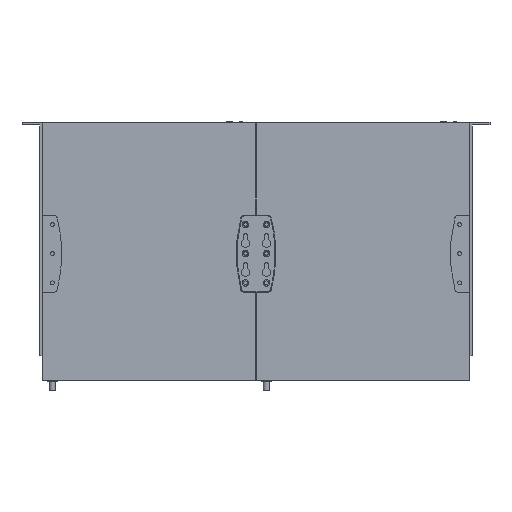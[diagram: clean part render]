
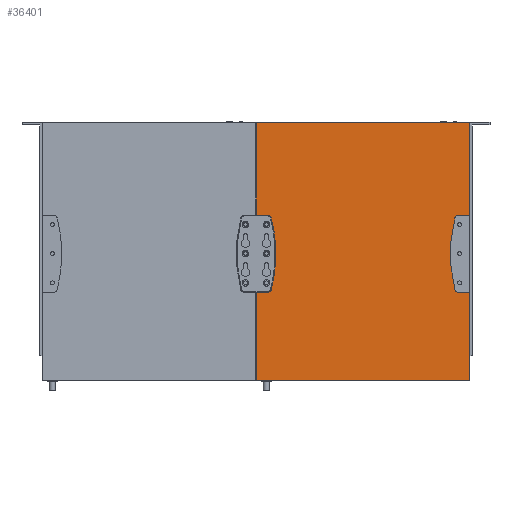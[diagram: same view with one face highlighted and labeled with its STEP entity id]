
A CAD part, front view. The second image highlights one B-rep face of the part: STEP entity #36401.
In plain terms, the highlighted planar face has unit normal (0, -1, 0).
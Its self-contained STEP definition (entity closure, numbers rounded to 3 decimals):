
#1144 = ORIENTED_EDGE ( 'NONE', *, *, #42557, .F. ) ;
#1253 = LINE ( 'NONE', #55145, #15999 ) ;
#1670 = CARTESIAN_POINT ( 'NONE',  ( 110.78, -21.8, 133.295 ) ) ;
#2424 = AXIS2_PLACEMENT_3D ( 'NONE', #49204, #36098, #31644 ) ;
#3440 = EDGE_CURVE ( 'NONE', #12459, #30993, #41377, .T. ) ;
#3465 = CIRCLE ( 'NONE', #21582, 3.8 ) ;
#3591 = EDGE_CURVE ( 'NONE', #5114, #47298, #15777, .T. ) ;
#4117 = CARTESIAN_POINT ( 'NONE',  ( 330.92, -21.8, 133.295 ) ) ;
#4150 = DIRECTION ( 'NONE',  ( 0., -1., 0. ) ) ;
#4385 = VERTEX_POINT ( 'NONE', #49363 ) ;
#4719 = DIRECTION ( 'NONE',  ( 1., 0., 0. ) ) ;
#5014 = DIRECTION ( 'NONE',  ( 0., -1., 0. ) ) ;
#5114 = VERTEX_POINT ( 'NONE', #32747 ) ;
#5810 = DIRECTION ( 'NONE',  ( -1., 0., 0. ) ) ;
#5855 = EDGE_CURVE ( 'NONE', #6227, #54648, #19531, .T. ) ;
#5895 = AXIS2_PLACEMENT_3D ( 'NONE', #1670, #16304, #15408 ) ;
#6227 = VERTEX_POINT ( 'NONE', #9522 ) ;
#6419 = FACE_OUTER_BOUND ( 'NONE', #20671, .T. ) ;
#6953 = CIRCLE ( 'NONE', #27913, 149.8 ) ;
#7307 = PLANE ( 'NONE',  #5895 ) ;
#7544 = CARTESIAN_POINT ( 'NONE',  ( 110.78, -21.8, -42.1 ) ) ;
#8340 = CARTESIAN_POINT ( 'NONE',  ( 330.92, -21.8, 133.295 ) ) ;
#9132 = ORIENTED_EDGE ( 'NONE', *, *, #50027, .F. ) ;
#9478 = DIRECTION ( 'NONE',  ( 1., 0., 0. ) ) ;
#9522 = CARTESIAN_POINT ( 'NONE',  ( 110.78, -21.8, -133.295 ) ) ;
#11155 = EDGE_CURVE ( 'NONE', #27369, #6227, #36009, .T. ) ;
#11206 = EDGE_CURVE ( 'NONE', #4385, #27527, #3465, .T. ) ;
#11228 = DIRECTION ( 'NONE',  ( 1., 0., 0. ) ) ;
#11923 = LINE ( 'NONE', #35127, #54993 ) ;
#12058 = CARTESIAN_POINT ( 'NONE',  ( 315.545, -21.8, 34.637 ) ) ;
#12459 = VERTEX_POINT ( 'NONE', #48422 ) ;
#12526 = ORIENTED_EDGE ( 'NONE', *, *, #23841, .F. ) ;
#13388 = CIRCLE ( 'NONE', #56912, 3.8 ) ;
#13491 = VERTEX_POINT ( 'NONE', #40243 ) ;
#15154 = ORIENTED_EDGE ( 'NONE', *, *, #33095, .F. ) ;
#15373 = VERTEX_POINT ( 'NONE', #52650 ) ;
#15408 = DIRECTION ( 'NONE',  ( -1., 0., 0. ) ) ;
#15735 = AXIS2_PLACEMENT_3D ( 'NONE', #30453, #37957, #5810 ) ;
#15777 = CIRCLE ( 'NONE', #2424, 3.8 ) ;
#15943 = CARTESIAN_POINT ( 'NONE',  ( 319.228, -21.8, 37.5 ) ) ;
#15999 = VECTOR ( 'NONE', #18892, 1000. ) ;
#16133 = ORIENTED_EDGE ( 'NONE', *, *, #52985, .F. ) ;
#16243 = DIRECTION ( 'NONE',  ( -1., 0., 0. ) ) ;
#16304 = DIRECTION ( 'NONE',  ( 0., 1., 0. ) ) ;
#16694 = DIRECTION ( 'NONE',  ( 0., -1., 0. ) ) ;
#17599 = CARTESIAN_POINT ( 'NONE',  ( 319.228, -21.8, -42.1 ) ) ;
#18730 = VECTOR ( 'NONE', #52017, 1000. ) ;
#18892 = DIRECTION ( 'NONE',  ( 1., 0., 0. ) ) ;
#18897 = EDGE_CURVE ( 'NONE', #26408, #4385, #6953, .T. ) ;
#19531 = LINE ( 'NONE', #23675, #26395 ) ;
#19728 = CARTESIAN_POINT ( 'NONE',  ( 330.92, -21.8, 133.295 ) ) ;
#19906 = DIRECTION ( 'NONE',  ( 1., 0., 0. ) ) ;
#20654 = DIRECTION ( 'NONE',  ( -1., 0., 0. ) ) ;
#20671 = EDGE_LOOP ( 'NONE', ( #16133, #21475, #37955, #42294, #12526, #33293, #15154, #51831, #24706, #9132, #39690, #1144, #52719, #33520, #38062, #23369, #56595 ) ) ;
#21377 = CARTESIAN_POINT ( 'NONE',  ( 319.228, -21.8, -42.1 ) ) ;
#21475 = ORIENTED_EDGE ( 'NONE', *, *, #45681, .F. ) ;
#21582 = AXIS2_PLACEMENT_3D ( 'NONE', #27352, #5014, #4719 ) ;
#23369 = ORIENTED_EDGE ( 'NONE', *, *, #11155, .T. ) ;
#23675 = CARTESIAN_POINT ( 'NONE',  ( 110.78, -21.8, -133.295 ) ) ;
#23841 = EDGE_CURVE ( 'NONE', #25606, #26408, #45394, .T. ) ;
#24072 = CARTESIAN_POINT ( 'NONE',  ( 319.228, -21.8, 37.5 ) ) ;
#24369 = EDGE_CURVE ( 'NONE', #15373, #36172, #1253, .T. ) ;
#24706 = ORIENTED_EDGE ( 'NONE', *, *, #58363, .T. ) ;
#25337 = CIRCLE ( 'NONE', #30796, 149.8 ) ;
#25523 = EDGE_CURVE ( 'NONE', #13491, #12459, #13388, .T. ) ;
#25606 = VERTEX_POINT ( 'NONE', #15943 ) ;
#26395 = VECTOR ( 'NONE', #37337, 1000. ) ;
#26408 = VERTEX_POINT ( 'NONE', #12058 ) ;
#26808 = DIRECTION ( 'NONE',  ( 0., 0., -1. ) ) ;
#26937 = VERTEX_POINT ( 'NONE', #51477 ) ;
#27323 = AXIS2_PLACEMENT_3D ( 'NONE', #39283, #16694, #56511 ) ;
#27352 = CARTESIAN_POINT ( 'NONE',  ( 319.228, -21.8, -38.3 ) ) ;
#27369 = VERTEX_POINT ( 'NONE', #7544 ) ;
#27527 = VERTEX_POINT ( 'NONE', #17599 ) ;
#27754 = DIRECTION ( 'NONE',  ( 0., 0., -1. ) ) ;
#27913 = AXIS2_PLACEMENT_3D ( 'NONE', #58601, #4150, #9478 ) ;
#28491 = VECTOR ( 'NONE', #54818, 1000. ) ;
#30096 = VERTEX_POINT ( 'NONE', #37112 ) ;
#30453 = CARTESIAN_POINT ( 'NONE',  ( -19.02, -21.8, -2.3 ) ) ;
#30796 = AXIS2_PLACEMENT_3D ( 'NONE', #52464, #43829, #20654 ) ;
#30993 = VERTEX_POINT ( 'NONE', #43412 ) ;
#31644 = DIRECTION ( 'NONE',  ( -1., 0., 0. ) ) ;
#32233 = CARTESIAN_POINT ( 'NONE',  ( 110.78, -21.8, 133.295 ) ) ;
#32747 = CARTESIAN_POINT ( 'NONE',  ( 126.155, -21.8, 34.637 ) ) ;
#32811 = LINE ( 'NONE', #19728, #28491 ) ;
#33095 = EDGE_CURVE ( 'NONE', #36172, #26937, #32811, .T. ) ;
#33293 = ORIENTED_EDGE ( 'NONE', *, *, #46697, .F. ) ;
#33520 = ORIENTED_EDGE ( 'NONE', *, *, #25523, .F. ) ;
#33810 = CARTESIAN_POINT ( 'NONE',  ( 330.92, -21.8, -42.1 ) ) ;
#35127 = CARTESIAN_POINT ( 'NONE',  ( 122.472, -21.8, 37.5 ) ) ;
#35173 = VECTOR ( 'NONE', #26808, 1000. ) ;
#36009 = LINE ( 'NONE', #49407, #37671 ) ;
#36098 = DIRECTION ( 'NONE',  ( 0., -1., 0. ) ) ;
#36172 = VERTEX_POINT ( 'NONE', #4117 ) ;
#36401 = ADVANCED_FACE ( 'NONE', ( #6419 ), #7307, .F. ) ;
#37112 = CARTESIAN_POINT ( 'NONE',  ( 110.78, -21.8, 37.5 ) ) ;
#37337 = DIRECTION ( 'NONE',  ( 1., 0., 0. ) ) ;
#37671 = VECTOR ( 'NONE', #40464, 1000. ) ;
#37955 = ORIENTED_EDGE ( 'NONE', *, *, #11206, .F. ) ;
#37957 = DIRECTION ( 'NONE',  ( 0., -1., 0. ) ) ;
#38062 = ORIENTED_EDGE ( 'NONE', *, *, #56591, .F. ) ;
#39283 = CARTESIAN_POINT ( 'NONE',  ( 319.228, -21.8, 33.7 ) ) ;
#39690 = ORIENTED_EDGE ( 'NONE', *, *, #3591, .F. ) ;
#39726 = CARTESIAN_POINT ( 'NONE',  ( 122.472, -21.8, -38.3 ) ) ;
#40243 = CARTESIAN_POINT ( 'NONE',  ( 122.472, -21.8, -42.1 ) ) ;
#40464 = DIRECTION ( 'NONE',  ( 0., 0., -1. ) ) ;
#41377 = CIRCLE ( 'NONE', #15735, 149.8 ) ;
#41747 = CARTESIAN_POINT ( 'NONE',  ( 330.92, -21.8, -133.295 ) ) ;
#42294 = ORIENTED_EDGE ( 'NONE', *, *, #18897, .F. ) ;
#42557 = EDGE_CURVE ( 'NONE', #30993, #5114, #25337, .T. ) ;
#42590 = LINE ( 'NONE', #32233, #51714 ) ;
#43248 = VECTOR ( 'NONE', #11228, 1000. ) ;
#43412 = CARTESIAN_POINT ( 'NONE',  ( 130.78, -21.8, -2.3 ) ) ;
#43829 = DIRECTION ( 'NONE',  ( 0., -1., 0. ) ) ;
#45394 = CIRCLE ( 'NONE', #27323, 3.8 ) ;
#45681 = EDGE_CURVE ( 'NONE', #27527, #57439, #52008, .T. ) ;
#46695 = LINE ( 'NONE', #24072, #18730 ) ;
#46697 = EDGE_CURVE ( 'NONE', #26937, #25606, #46695, .T. ) ;
#47298 = VERTEX_POINT ( 'NONE', #48389 ) ;
#48233 = DIRECTION ( 'NONE',  ( -1., 0., 0. ) ) ;
#48389 = CARTESIAN_POINT ( 'NONE',  ( 122.472, -21.8, 37.5 ) ) ;
#48422 = CARTESIAN_POINT ( 'NONE',  ( 126.155, -21.8, -39.237 ) ) ;
#49204 = CARTESIAN_POINT ( 'NONE',  ( 122.472, -21.8, 33.7 ) ) ;
#49363 = CARTESIAN_POINT ( 'NONE',  ( 315.545, -21.8, -39.237 ) ) ;
#49407 = CARTESIAN_POINT ( 'NONE',  ( 110.78, -21.8, 133.295 ) ) ;
#50027 = EDGE_CURVE ( 'NONE', #47298, #30096, #11923, .T. ) ;
#51116 = CARTESIAN_POINT ( 'NONE',  ( 122.472, -21.8, -42.1 ) ) ;
#51477 = CARTESIAN_POINT ( 'NONE',  ( 330.92, -21.8, 37.5 ) ) ;
#51714 = VECTOR ( 'NONE', #27754, 1000. ) ;
#51831 = ORIENTED_EDGE ( 'NONE', *, *, #24369, .F. ) ;
#51999 = LINE ( 'NONE', #51116, #54535 ) ;
#52008 = LINE ( 'NONE', #21377, #43248 ) ;
#52017 = DIRECTION ( 'NONE',  ( -1., 0., 0. ) ) ;
#52464 = CARTESIAN_POINT ( 'NONE',  ( -19.02, -21.8, -2.3 ) ) ;
#52525 = DIRECTION ( 'NONE',  ( 0., -1., 0. ) ) ;
#52650 = CARTESIAN_POINT ( 'NONE',  ( 110.78, -21.8, 133.295 ) ) ;
#52719 = ORIENTED_EDGE ( 'NONE', *, *, #3440, .F. ) ;
#52985 = EDGE_CURVE ( 'NONE', #57439, #54648, #57761, .T. ) ;
#54535 = VECTOR ( 'NONE', #19906, 1000. ) ;
#54648 = VERTEX_POINT ( 'NONE', #41747 ) ;
#54818 = DIRECTION ( 'NONE',  ( 0., 0., -1. ) ) ;
#54993 = VECTOR ( 'NONE', #48233, 1000. ) ;
#55145 = CARTESIAN_POINT ( 'NONE',  ( 110.78, -21.8, 133.295 ) ) ;
#56511 = DIRECTION ( 'NONE',  ( 1., 0., 0. ) ) ;
#56591 = EDGE_CURVE ( 'NONE', #27369, #13491, #51999, .T. ) ;
#56595 = ORIENTED_EDGE ( 'NONE', *, *, #5855, .T. ) ;
#56912 = AXIS2_PLACEMENT_3D ( 'NONE', #39726, #52525, #16243 ) ;
#57439 = VERTEX_POINT ( 'NONE', #33810 ) ;
#57761 = LINE ( 'NONE', #8340, #35173 ) ;
#58363 = EDGE_CURVE ( 'NONE', #15373, #30096, #42590, .T. ) ;
#58601 = CARTESIAN_POINT ( 'NONE',  ( 460.72, -21.8, -2.3 ) ) ;
